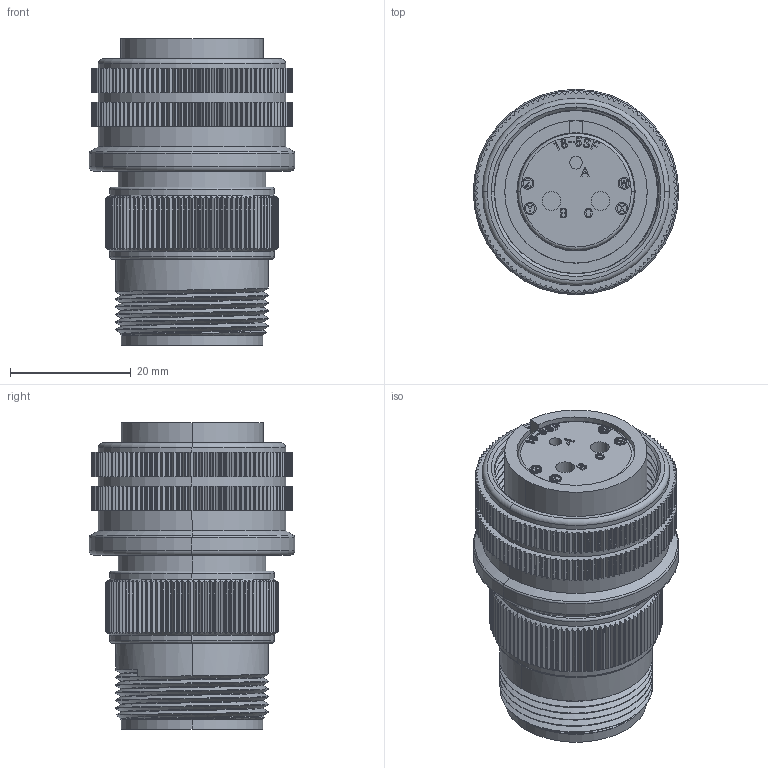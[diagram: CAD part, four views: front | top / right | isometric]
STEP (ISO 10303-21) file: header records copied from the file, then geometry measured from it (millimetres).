
FILE_DESCRIPTION (( 'STEP AP203' ), '1' );
FILE_NAME ('DMS3106A18-5S.STEP', '2017-07-06T02:04:15', ( '' ), ( '' ), 'SwSTEP 2.0', 'SolidWorks 2015', '' );
FILE_SCHEMA (( 'CONFIG_CONTROL_DESIGN' ));
Products named in the file (1): DMS3106A18-5S
Bounding box: 34.08 x 34.08 x 50.81 mm (x, y, z)
Volume: 23093.9 mm3; surface area: 16916.7 mm2
Topology: 1 solids, 1 shells, 2709 faces, 7883 edges, 5241 vertices
Faces by surface type: cylinder 1546, plane 896, bspline 235, torus 16, cone 16
Entity records: 104353 total; most frequent: CARTESIAN_POINT 34363, ORIENTED_EDGE 15766, DIRECTION 13568, EDGE_CURVE 7883, VERTEX_POINT 5241, AXIS2_PLACEMENT_3D 4852, LINE 3864, VECTOR 3864
